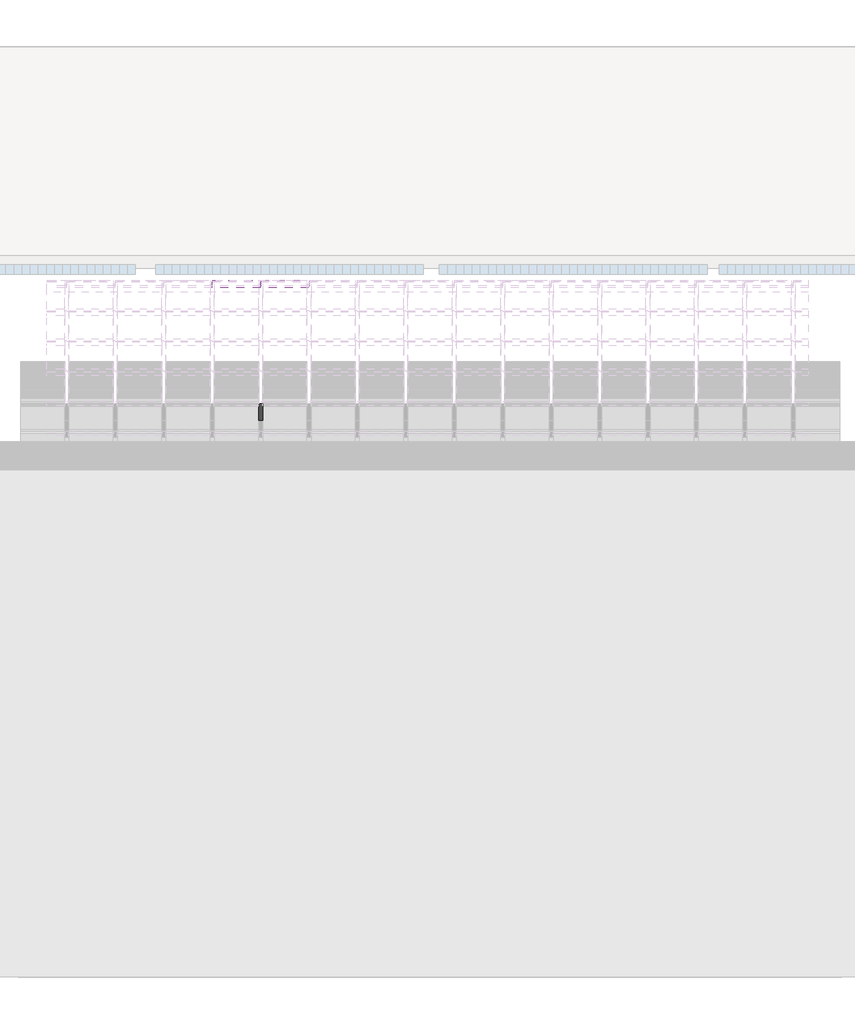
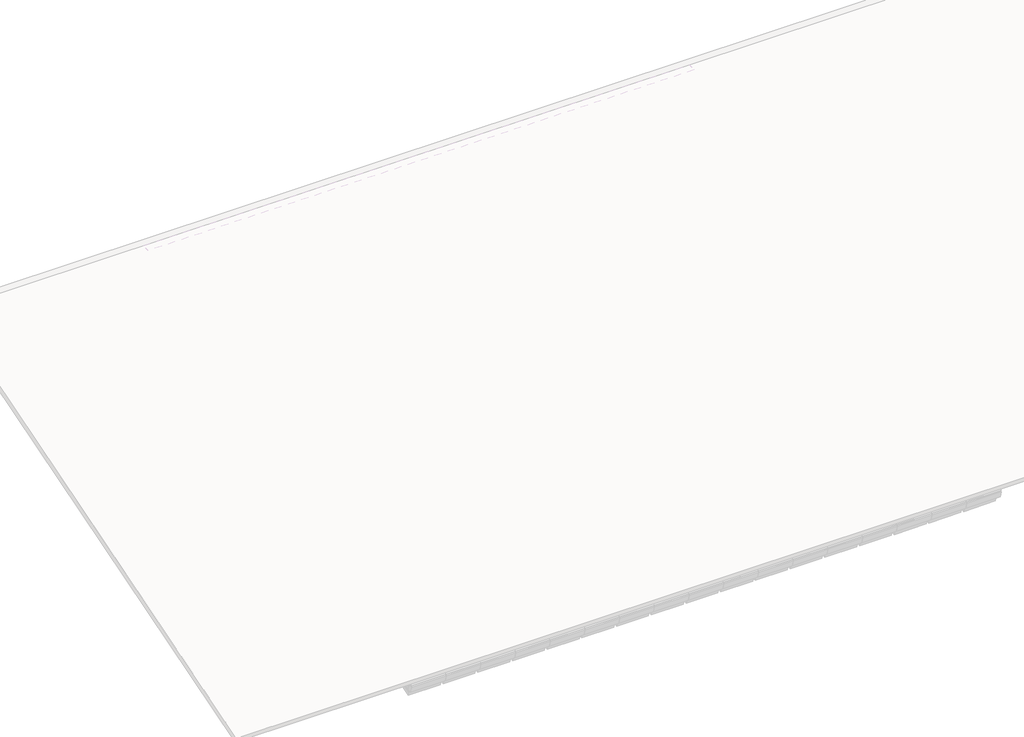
# One storey, part 15 of 57: 84 members, 40 plates.
"""IFC4 building model written with IfcOpenShell, lengths in millimetres."""

from ifc_helpers import new_model, si_unit, origin, place, context, project, spatial, transform, mapped, element, save
from components import rectangular_mullion_59984080, rectangular_mullion_2d2423ea, rectangular_mullion_3ac3718c, rectangular_mullion_caibro_e4384bba, rectangular_mullion_caibro_0993a3cf, rectangular_mullion_caibro_650698a1, empty_system_panel_vazio_178faf58, empty_system_panel_vazio_2c78850d

model = new_model("IFC4")

# Units and contexts
model_context = context("Model", 3, world=origin())
ifc_project = project(units=[si_unit("LENGTHUNIT", "METRE", prefix="MILLI")], contexts=[model_context])

# Site, building, storey
site = spatial("IfcSite", under=ifc_project)
building = spatial("IfcBuilding", under=site)
storey = spatial("IfcBuildingStorey", under=building, Name="Nível 2", Elevation=4100.0)

# Members
placement = place(None, origin())
rectangular_mullion_shape = rectangular_mullion_59984080(model_context)
element("IfcMember", 1, ObjectType="Rectangular Mullion : Ripa", at=placement, inside=storey, context=model_context, shape_type="MappedRepresentation", body=[
    mapped(rectangular_mullion_shape, transform((8344.2829728, 8162.5832694, 3598.8241594), x_axis=(0.0, 0.9578262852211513, 0.2873478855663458), y_axis=(0.0, 0.2873478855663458, -0.9578262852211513), z_axis=(-1.0, 0.0, 0.0))),
])
element("IfcMember", 2, ObjectType="Rectangular Mullion : Ripa", at=placement, inside=storey, context=model_context, shape_type="MappedRepresentation", body=[
    mapped(rectangular_mullion_shape, transform((8941.3377293, 8162.5832694, 3598.8241594), x_axis=(0.0, 0.9578262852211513, 0.2873478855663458), y_axis=(0.0, 0.2873478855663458, -0.9578262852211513), z_axis=(-1.0, 0.0, 0.0))),
])
element("IfcMember", 3, ObjectType="Rectangular Mullion : Ripa", at=placement, inside=storey, context=model_context, shape_type="MappedRepresentation", body=[
    mapped(rectangular_mullion_shape, transform((9538.3924857, 8162.5832694, 3598.8241594), x_axis=(0.0, 0.9578262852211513, 0.2873478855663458), y_axis=(0.0, 0.2873478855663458, -0.9578262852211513), z_axis=(-1.0, 0.0, 0.0))),
])
element("IfcMember", 4, ObjectType="Rectangular Mullion : Ripa", at=placement, inside=storey, context=model_context, shape_type="MappedRepresentation", body=[
    mapped(rectangular_mullion_shape, transform((10135.4472421, 8162.5832694, 3598.8241594), x_axis=(0.0, 0.9578262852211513, 0.2873478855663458), y_axis=(0.0, 0.2873478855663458, -0.9578262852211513), z_axis=(-1.0, 0.0, 0.0))),
])
element("IfcMember", 5, ObjectType="Rectangular Mullion : Ripa", at=placement, inside=storey, context=model_context, shape_type="MappedRepresentation", body=[
    mapped(rectangular_mullion_shape, transform((10732.5019985, 8162.5832694, 3598.8241594), x_axis=(0.0, 0.9578262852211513, 0.2873478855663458), y_axis=(0.0, 0.2873478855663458, -0.9578262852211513), z_axis=(-1.0, 0.0, 0.0))),
])
element("IfcMember", 6, ObjectType="Rectangular Mullion : Ripa", at=placement, inside=storey, context=model_context, shape_type="MappedRepresentation", body=[
    mapped(rectangular_mullion_shape, transform((11329.556755, 8162.5832694, 3598.8241594), x_axis=(0.0, 0.9578262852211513, 0.2873478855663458), y_axis=(0.0, 0.2873478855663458, -0.9578262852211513), z_axis=(-1.0, 0.0, 0.0))),
])
element("IfcMember", 7, ObjectType="Rectangular Mullion : Ripa", at=placement, inside=storey, context=model_context, shape_type="MappedRepresentation", body=[
    mapped(rectangular_mullion_shape, transform((11926.6115114, 8162.5832694, 3598.8241594), x_axis=(0.0, 0.9578262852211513, 0.2873478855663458), y_axis=(0.0, 0.2873478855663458, -0.9578262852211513), z_axis=(-1.0, 0.0, 0.0))),
])
element("IfcMember", 8, ObjectType="Rectangular Mullion : Ripa", at=placement, inside=storey, context=model_context, shape_type="MappedRepresentation", body=[
    mapped(rectangular_mullion_shape, transform((8344.2829728, 8532.7605281, 3709.877337), x_axis=(0.0, 0.9578262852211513, 0.2873478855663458), y_axis=(0.0, 0.2873478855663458, -0.9578262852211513), z_axis=(-1.0, 0.0, 0.0))),
])
element("IfcMember", 9, ObjectType="Rectangular Mullion : Ripa", at=placement, inside=storey, context=model_context, shape_type="MappedRepresentation", body=[
    mapped(rectangular_mullion_shape, transform((8941.3377293, 8532.7605281, 3709.877337), x_axis=(0.0, 0.9578262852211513, 0.2873478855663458), y_axis=(0.0, 0.2873478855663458, -0.9578262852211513), z_axis=(-1.0, 0.0, 0.0))),
])
element("IfcMember", 10, ObjectType="Rectangular Mullion : Ripa", at=placement, inside=storey, context=model_context, shape_type="MappedRepresentation", body=[
    mapped(rectangular_mullion_shape, transform((9538.3924857, 8532.7605281, 3709.877337), x_axis=(0.0, 0.9578262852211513, 0.2873478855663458), y_axis=(0.0, 0.2873478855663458, -0.9578262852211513), z_axis=(-1.0, 0.0, 0.0))),
])
element("IfcMember", 11, ObjectType="Rectangular Mullion : Ripa", at=placement, inside=storey, context=model_context, shape_type="MappedRepresentation", body=[
    mapped(rectangular_mullion_shape, transform((10135.4472421, 8532.7605281, 3709.877337), x_axis=(0.0, 0.9578262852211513, 0.2873478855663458), y_axis=(0.0, 0.2873478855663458, -0.9578262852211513), z_axis=(-1.0, 0.0, 0.0))),
])
element("IfcMember", 12, ObjectType="Rectangular Mullion : Ripa", at=placement, inside=storey, context=model_context, shape_type="MappedRepresentation", body=[
    mapped(rectangular_mullion_shape, transform((10732.5019985, 8532.7605281, 3709.877337), x_axis=(0.0, 0.9578262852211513, 0.2873478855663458), y_axis=(0.0, 0.2873478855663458, -0.9578262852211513), z_axis=(-1.0, 0.0, 0.0))),
])
element("IfcMember", 13, ObjectType="Rectangular Mullion : Ripa", at=placement, inside=storey, context=model_context, shape_type="MappedRepresentation", body=[
    mapped(rectangular_mullion_shape, transform((11329.556755, 8532.7605281, 3709.877337), x_axis=(0.0, 0.9578262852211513, 0.2873478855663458), y_axis=(0.0, 0.2873478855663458, -0.9578262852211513), z_axis=(-1.0, 0.0, 0.0))),
])
element("IfcMember", 14, ObjectType="Rectangular Mullion : Ripa", at=placement, inside=storey, context=model_context, shape_type="MappedRepresentation", body=[
    mapped(rectangular_mullion_shape, transform((11926.6115114, 8532.7605281, 3709.877337), x_axis=(0.0, 0.9578262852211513, 0.2873478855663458), y_axis=(0.0, 0.2873478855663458, -0.9578262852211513), z_axis=(-1.0, 0.0, 0.0))),
])
element("IfcMember", 15, ObjectType="Rectangular Mullion : Ripa", at=placement, inside=storey, context=model_context, shape_type="MappedRepresentation", body=[
    mapped(rectangular_mullion_shape, transform((8344.2829728, 8902.9377868, 3820.9305146), x_axis=(0.0, 0.9578262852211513, 0.2873478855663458), y_axis=(0.0, 0.2873478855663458, -0.9578262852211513), z_axis=(-1.0, 0.0, 0.0))),
])
element("IfcMember", 16, ObjectType="Rectangular Mullion : Ripa", at=placement, inside=storey, context=model_context, shape_type="MappedRepresentation", body=[
    mapped(rectangular_mullion_shape, transform((8941.3377293, 8902.9377868, 3820.9305146), x_axis=(0.0, 0.9578262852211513, 0.2873478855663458), y_axis=(0.0, 0.2873478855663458, -0.9578262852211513), z_axis=(-1.0, 0.0, 0.0))),
])
element("IfcMember", 17, ObjectType="Rectangular Mullion : Ripa", at=placement, inside=storey, context=model_context, shape_type="MappedRepresentation", body=[
    mapped(rectangular_mullion_shape, transform((9538.3924857, 8902.9377868, 3820.9305146), x_axis=(0.0, 0.9578262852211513, 0.2873478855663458), y_axis=(0.0, 0.2873478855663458, -0.9578262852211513), z_axis=(-1.0, 0.0, 0.0))),
])
element("IfcMember", 18, ObjectType="Rectangular Mullion : Ripa", at=placement, inside=storey, context=model_context, shape_type="MappedRepresentation", body=[
    mapped(rectangular_mullion_shape, transform((10135.4472421, 8902.9377868, 3820.9305146), x_axis=(0.0, 0.9578262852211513, 0.2873478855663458), y_axis=(0.0, 0.2873478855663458, -0.9578262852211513), z_axis=(-1.0, 0.0, 0.0))),
])
element("IfcMember", 19, ObjectType="Rectangular Mullion : Ripa", at=placement, inside=storey, context=model_context, shape_type="MappedRepresentation", body=[
    mapped(rectangular_mullion_shape, transform((10732.5019985, 8902.9377868, 3820.9305146), x_axis=(0.0, 0.9578262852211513, 0.2873478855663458), y_axis=(0.0, 0.2873478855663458, -0.9578262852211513), z_axis=(-1.0, 0.0, 0.0))),
])
element("IfcMember", 20, ObjectType="Rectangular Mullion : Ripa", at=placement, inside=storey, context=model_context, shape_type="MappedRepresentation", body=[
    mapped(rectangular_mullion_shape, transform((11329.556755, 8902.9377868, 3820.9305146), x_axis=(0.0, 0.9578262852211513, 0.2873478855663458), y_axis=(0.0, 0.2873478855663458, -0.9578262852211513), z_axis=(-1.0, 0.0, 0.0))),
])
element("IfcMember", 21, ObjectType="Rectangular Mullion : Ripa", at=placement, inside=storey, context=model_context, shape_type="MappedRepresentation", body=[
    mapped(rectangular_mullion_shape, transform((11926.6115114, 8902.9377868, 3820.9305146), x_axis=(0.0, 0.9578262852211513, 0.2873478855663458), y_axis=(0.0, 0.2873478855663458, -0.9578262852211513), z_axis=(-1.0, 0.0, 0.0))),
])
element("IfcMember", 22, ObjectType="Rectangular Mullion : Ripa", at=placement, inside=storey, context=model_context, shape_type="MappedRepresentation", body=[
    mapped(rectangular_mullion_shape, transform((8344.2829728, 9273.1150454, 3931.9836922), x_axis=(0.0, 0.9578262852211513, 0.2873478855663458), y_axis=(0.0, 0.2873478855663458, -0.9578262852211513), z_axis=(-1.0, 0.0, 0.0))),
])
element("IfcMember", 23, ObjectType="Rectangular Mullion : Ripa", at=placement, inside=storey, context=model_context, shape_type="MappedRepresentation", body=[
    mapped(rectangular_mullion_shape, transform((8941.3377293, 9273.1150454, 3931.9836922), x_axis=(0.0, 0.9578262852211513, 0.2873478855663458), y_axis=(0.0, 0.2873478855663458, -0.9578262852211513), z_axis=(-1.0, 0.0, 0.0))),
])
element("IfcMember", 24, ObjectType="Rectangular Mullion : Ripa", at=placement, inside=storey, context=model_context, shape_type="MappedRepresentation", body=[
    mapped(rectangular_mullion_shape, transform((9538.3924857, 9273.1150454, 3931.9836922), x_axis=(0.0, 0.9578262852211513, 0.2873478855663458), y_axis=(0.0, 0.2873478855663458, -0.9578262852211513), z_axis=(-1.0, 0.0, 0.0))),
])
element("IfcMember", 25, ObjectType="Rectangular Mullion : Ripa", at=placement, inside=storey, context=model_context, shape_type="MappedRepresentation", body=[
    mapped(rectangular_mullion_shape, transform((10135.4472421, 9273.1150454, 3931.9836922), x_axis=(0.0, 0.9578262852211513, 0.2873478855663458), y_axis=(0.0, 0.2873478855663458, -0.9578262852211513), z_axis=(-1.0, 0.0, 0.0))),
])
element("IfcMember", 26, ObjectType="Rectangular Mullion : Ripa", at=placement, inside=storey, context=model_context, shape_type="MappedRepresentation", body=[
    mapped(rectangular_mullion_shape, transform((10732.5019985, 9273.1150454, 3931.9836922), x_axis=(0.0, 0.9578262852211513, 0.2873478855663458), y_axis=(0.0, 0.2873478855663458, -0.9578262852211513), z_axis=(-1.0, 0.0, 0.0))),
])
element("IfcMember", 27, ObjectType="Rectangular Mullion : Ripa", at=placement, inside=storey, context=model_context, shape_type="MappedRepresentation", body=[
    mapped(rectangular_mullion_shape, transform((11329.556755, 9273.1150454, 3931.9836922), x_axis=(0.0, 0.9578262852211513, 0.2873478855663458), y_axis=(0.0, 0.2873478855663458, -0.9578262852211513), z_axis=(-1.0, 0.0, 0.0))),
])
element("IfcMember", 28, ObjectType="Rectangular Mullion : Ripa", at=placement, inside=storey, context=model_context, shape_type="MappedRepresentation", body=[
    mapped(rectangular_mullion_shape, transform((11926.6115114, 9273.1150454, 3931.9836922), x_axis=(0.0, 0.9578262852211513, 0.2873478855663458), y_axis=(0.0, 0.2873478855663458, -0.9578262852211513), z_axis=(-1.0, 0.0, 0.0))),
])
element("IfcMember", 29, ObjectType="Rectangular Mullion : Ripa", at=placement, inside=storey, context=model_context, shape_type="MappedRepresentation", body=[
    mapped(rectangular_mullion_shape, transform((8344.2829728, 9643.2923041, 4043.0368698), x_axis=(0.0, 0.9578262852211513, 0.2873478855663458), y_axis=(0.0, 0.2873478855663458, -0.9578262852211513), z_axis=(-1.0, 0.0, 0.0))),
])
element("IfcMember", 30, ObjectType="Rectangular Mullion : Ripa", at=placement, inside=storey, context=model_context, shape_type="MappedRepresentation", body=[
    mapped(rectangular_mullion_shape, transform((8941.3377293, 9643.2923041, 4043.0368698), x_axis=(0.0, 0.9578262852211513, 0.2873478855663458), y_axis=(0.0, 0.2873478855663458, -0.9578262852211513), z_axis=(-1.0, 0.0, 0.0))),
])
element("IfcMember", 31, ObjectType="Rectangular Mullion : Ripa", at=placement, inside=storey, context=model_context, shape_type="MappedRepresentation", body=[
    mapped(rectangular_mullion_shape, transform((9538.3924857, 9643.2923041, 4043.0368698), x_axis=(0.0, 0.9578262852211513, 0.2873478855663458), y_axis=(0.0, 0.2873478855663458, -0.9578262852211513), z_axis=(-1.0, 0.0, 0.0))),
])
element("IfcMember", 32, ObjectType="Rectangular Mullion : Ripa", at=placement, inside=storey, context=model_context, shape_type="MappedRepresentation", body=[
    mapped(rectangular_mullion_shape, transform((10135.4472421, 9643.2923041, 4043.0368698), x_axis=(0.0, 0.9578262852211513, 0.2873478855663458), y_axis=(0.0, 0.2873478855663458, -0.9578262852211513), z_axis=(-1.0, 0.0, 0.0))),
])
element("IfcMember", 33, ObjectType="Rectangular Mullion : Ripa", at=placement, inside=storey, context=model_context, shape_type="MappedRepresentation", body=[
    mapped(rectangular_mullion_shape, transform((10732.5019985, 9643.2923041, 4043.0368698), x_axis=(0.0, 0.9578262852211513, 0.2873478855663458), y_axis=(0.0, 0.2873478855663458, -0.9578262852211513), z_axis=(-1.0, 0.0, 0.0))),
])
element("IfcMember", 34, ObjectType="Rectangular Mullion : Ripa", at=placement, inside=storey, context=model_context, shape_type="MappedRepresentation", body=[
    mapped(rectangular_mullion_shape, transform((11329.556755, 9643.2923041, 4043.0368698), x_axis=(0.0, 0.9578262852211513, 0.2873478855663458), y_axis=(0.0, 0.2873478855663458, -0.9578262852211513), z_axis=(-1.0, 0.0, 0.0))),
])
rectangular_mullion_2_shape = rectangular_mullion_2d2423ea(model_context)
element("IfcMember", 35, ObjectType="Rectangular Mullion : Terça", at=placement, inside=storey, context=model_context, shape_type="MappedRepresentation", body=[
    mapped(rectangular_mullion_2_shape, transform((8344.2829728, 9159.0196393, 3835.1132313), x_axis=(0.0, 0.9578262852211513, 0.2873478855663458), y_axis=(0.0, 0.2873478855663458, -0.9578262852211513), z_axis=(-1.0, 0.0, 0.0))),
])
element("IfcMember", 36, ObjectType="Rectangular Mullion : Terça", at=placement, inside=storey, context=model_context, shape_type="MappedRepresentation", body=[
    mapped(rectangular_mullion_2_shape, transform((8941.3377293, 9159.0196393, 3835.1132313), x_axis=(0.0, 0.9578262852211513, 0.2873478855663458), y_axis=(0.0, 0.2873478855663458, -0.9578262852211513), z_axis=(-1.0, 0.0, 0.0))),
])
element("IfcMember", 37, ObjectType="Rectangular Mullion : Terça", at=placement, inside=storey, context=model_context, shape_type="MappedRepresentation", body=[
    mapped(rectangular_mullion_2_shape, transform((9538.3924857, 9159.0196393, 3835.1132313), x_axis=(0.0, 0.9578262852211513, 0.2873478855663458), y_axis=(0.0, 0.2873478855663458, -0.9578262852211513), z_axis=(-1.0, 0.0, 0.0))),
])
element("IfcMember", 38, ObjectType="Rectangular Mullion : Terça", at=placement, inside=storey, context=model_context, shape_type="MappedRepresentation", body=[
    mapped(rectangular_mullion_2_shape, transform((10135.4472421, 9159.0196393, 3835.1132313), x_axis=(0.0, 0.9578262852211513, 0.2873478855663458), y_axis=(0.0, 0.2873478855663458, -0.9578262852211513), z_axis=(-1.0, 0.0, 0.0))),
])
element("IfcMember", 39, ObjectType="Rectangular Mullion : Terça", at=placement, inside=storey, context=model_context, shape_type="MappedRepresentation", body=[
    mapped(rectangular_mullion_2_shape, transform((10732.5019985, 9159.0196393, 3835.1132313), x_axis=(0.0, 0.9578262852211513, 0.2873478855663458), y_axis=(0.0, 0.2873478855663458, -0.9578262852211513), z_axis=(-1.0, 0.0, 0.0))),
])
rectangular_mullion_3_shape = rectangular_mullion_3ac3718c(model_context)
element("IfcMember", 40, ObjectType="Rectangular Mullion : Terça", at=placement, inside=storey, context=model_context, shape_type="MappedRepresentation", body=[
    mapped(rectangular_mullion_3_shape, transform((7125.17346, 15566.1284427, 5757.2458723), x_axis=(0.0, 0.9578262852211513, 0.2873478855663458), y_axis=(0.0, 0.2873478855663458, -0.9578262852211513), z_axis=(-1.0, 0.0, 0.0))),
])
element("IfcMember", 41, ObjectType="Rectangular Mullion : Terça", at=placement, inside=storey, context=model_context, shape_type="MappedRepresentation", body=[
    mapped(rectangular_mullion_3_shape, transform((7722.2282164, 15566.1284427, 5757.2458723), x_axis=(0.0, 0.9578262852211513, 0.2873478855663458), y_axis=(0.0, 0.2873478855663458, -0.9578262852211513), z_axis=(-1.0, 0.0, 0.0))),
])
rectangular_mullion_caibro_shape = rectangular_mullion_caibro_e4384bba(model_context)
element("IfcMember", 42, ObjectType="Rectangular Mullion : Caibro", at=placement, inside=storey, context=model_context, shape_type="MappedRepresentation", body=[
    mapped(rectangular_mullion_caibro_shape, transform((8319.2829728, 8162.5832694, 3598.8241594), x_axis=(1.0, 0.0, 0.0), y_axis=(0.0, 0.2873478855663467, -0.9578262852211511), z_axis=(0.0, 0.9578262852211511, 0.2873478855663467))),
])
element("IfcMember", 43, ObjectType="Rectangular Mullion : Caibro", at=placement, inside=storey, context=model_context, shape_type="MappedRepresentation", body=[
    mapped(rectangular_mullion_caibro_shape, transform((8319.2829728, 8532.7605281, 3709.877337), x_axis=(1.0, 0.0, 0.0), y_axis=(0.0, 0.2873478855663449, -0.9578262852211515), z_axis=(0.0, 0.9578262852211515, 0.2873478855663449))),
])
element("IfcMember", 44, ObjectType="Rectangular Mullion : Caibro", at=placement, inside=storey, context=model_context, shape_type="MappedRepresentation", body=[
    mapped(rectangular_mullion_caibro_shape, transform((8319.2829728, 8902.9377868, 3820.9305146), x_axis=(1.0, 0.0, 0.0), y_axis=(0.0, 0.2873478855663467, -0.9578262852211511), z_axis=(0.0, 0.9578262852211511, 0.2873478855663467))),
])
element("IfcMember", 45, ObjectType="Rectangular Mullion : Caibro", at=placement, inside=storey, context=model_context, shape_type="MappedRepresentation", body=[
    mapped(rectangular_mullion_caibro_shape, transform((8319.2829728, 9273.1150454, 3931.9836922), x_axis=(1.0, 0.0, 0.0), y_axis=(0.0, 0.2873478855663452, -0.9578262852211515), z_axis=(0.0, 0.9578262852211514, 0.28734788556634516))),
])
element("IfcMember", 46, ObjectType="Rectangular Mullion : Caibro", at=placement, inside=storey, context=model_context, shape_type="MappedRepresentation", body=[
    mapped(rectangular_mullion_caibro_shape, transform((8319.2829728, 9643.2923041, 4043.0368698), x_axis=(1.0, 0.0, 0.0), y_axis=(0.0, 0.28734788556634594, -0.9578262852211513), z_axis=(0.0, 0.9578262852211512, 0.2873478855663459))),
])
element("IfcMember", 47, ObjectType="Rectangular Mullion : Caibro", at=placement, inside=storey, context=model_context, shape_type="MappedRepresentation", body=[
    mapped(rectangular_mullion_caibro_shape, transform((8916.3377293, 8162.5832694, 3598.8241594), x_axis=(1.0, 0.0, 0.0), y_axis=(0.0, 0.2873478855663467, -0.9578262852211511), z_axis=(0.0, 0.9578262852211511, 0.2873478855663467))),
])
element("IfcMember", 48, ObjectType="Rectangular Mullion : Caibro", at=placement, inside=storey, context=model_context, shape_type="MappedRepresentation", body=[
    mapped(rectangular_mullion_caibro_shape, transform((8916.3377293, 8532.7605281, 3709.877337), x_axis=(1.0, 0.0, 0.0), y_axis=(0.0, 0.2873478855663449, -0.9578262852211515), z_axis=(0.0, 0.9578262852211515, 0.2873478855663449))),
])
element("IfcMember", 49, ObjectType="Rectangular Mullion : Caibro", at=placement, inside=storey, context=model_context, shape_type="MappedRepresentation", body=[
    mapped(rectangular_mullion_caibro_shape, transform((8916.3377293, 8902.9377868, 3820.9305146), x_axis=(1.0, 0.0, 0.0), y_axis=(0.0, 0.2873478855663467, -0.9578262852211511), z_axis=(0.0, 0.9578262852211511, 0.2873478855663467))),
])
element("IfcMember", 50, ObjectType="Rectangular Mullion : Caibro", at=placement, inside=storey, context=model_context, shape_type="MappedRepresentation", body=[
    mapped(rectangular_mullion_caibro_shape, transform((8916.3377293, 9273.1150454, 3931.9836922), x_axis=(1.0, 0.0, 0.0), y_axis=(0.0, 0.2873478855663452, -0.9578262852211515), z_axis=(0.0, 0.9578262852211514, 0.28734788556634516))),
])
element("IfcMember", 51, ObjectType="Rectangular Mullion : Caibro", at=placement, inside=storey, context=model_context, shape_type="MappedRepresentation", body=[
    mapped(rectangular_mullion_caibro_shape, transform((8916.3377293, 9643.2923041, 4043.0368698), x_axis=(1.0, 0.0, 0.0), y_axis=(0.0, 0.28734788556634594, -0.9578262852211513), z_axis=(0.0, 0.9578262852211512, 0.2873478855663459))),
])
element("IfcMember", 52, ObjectType="Rectangular Mullion : Caibro", at=placement, inside=storey, context=model_context, shape_type="MappedRepresentation", body=[
    mapped(rectangular_mullion_caibro_shape, transform((9513.3924857, 8162.5832694, 3598.8241594), x_axis=(1.0, 0.0, 0.0), y_axis=(0.0, 0.28734788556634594, -0.9578262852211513), z_axis=(0.0, 0.9578262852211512, 0.2873478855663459))),
])
element("IfcMember", 53, ObjectType="Rectangular Mullion : Caibro", at=placement, inside=storey, context=model_context, shape_type="MappedRepresentation", body=[
    mapped(rectangular_mullion_caibro_shape, transform((9513.3924857, 8532.7605281, 3709.877337), x_axis=(1.0, 0.0, 0.0), y_axis=(0.0, 0.2873478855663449, -0.9578262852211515), z_axis=(0.0, 0.9578262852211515, 0.2873478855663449))),
])
element("IfcMember", 54, ObjectType="Rectangular Mullion : Caibro", at=placement, inside=storey, context=model_context, shape_type="MappedRepresentation", body=[
    mapped(rectangular_mullion_caibro_shape, transform((9513.3924857, 8902.9377868, 3820.9305146), x_axis=(1.0, 0.0, 0.0), y_axis=(0.0, 0.2873478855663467, -0.9578262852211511), z_axis=(0.0, 0.9578262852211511, 0.2873478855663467))),
])
element("IfcMember", 55, ObjectType="Rectangular Mullion : Caibro", at=placement, inside=storey, context=model_context, shape_type="MappedRepresentation", body=[
    mapped(rectangular_mullion_caibro_shape, transform((9513.3924857, 9273.1150454, 3931.9836922), x_axis=(1.0, 0.0, 0.0), y_axis=(0.0, 0.2873478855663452, -0.9578262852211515), z_axis=(0.0, 0.9578262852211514, 0.28734788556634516))),
])
element("IfcMember", 56, ObjectType="Rectangular Mullion : Caibro", at=placement, inside=storey, context=model_context, shape_type="MappedRepresentation", body=[
    mapped(rectangular_mullion_caibro_shape, transform((9513.3924857, 9643.2923041, 4043.0368698), x_axis=(1.0, 0.0, 0.0), y_axis=(0.0, 0.2873478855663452, -0.9578262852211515), z_axis=(0.0, 0.9578262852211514, 0.28734788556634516))),
])
element("IfcMember", 57, ObjectType="Rectangular Mullion : Caibro", at=placement, inside=storey, context=model_context, shape_type="MappedRepresentation", body=[
    mapped(rectangular_mullion_caibro_shape, transform((10110.4472421, 8162.5832694, 3598.8241594), x_axis=(1.0, 0.0, 0.0), y_axis=(0.0, 0.28734788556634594, -0.9578262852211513), z_axis=(0.0, 0.9578262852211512, 0.2873478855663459))),
])
element("IfcMember", 58, ObjectType="Rectangular Mullion : Caibro", at=placement, inside=storey, context=model_context, shape_type="MappedRepresentation", body=[
    mapped(rectangular_mullion_caibro_shape, transform((10110.4472421, 8532.7605281, 3709.877337), x_axis=(1.0, 0.0, 0.0), y_axis=(0.0, 0.2873478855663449, -0.9578262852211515), z_axis=(0.0, 0.9578262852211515, 0.2873478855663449))),
])
element("IfcMember", 59, ObjectType="Rectangular Mullion : Caibro", at=placement, inside=storey, context=model_context, shape_type="MappedRepresentation", body=[
    mapped(rectangular_mullion_caibro_shape, transform((10110.4472421, 8902.9377868, 3820.9305146), x_axis=(1.0, 0.0, 0.0), y_axis=(0.0, 0.2873478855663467, -0.9578262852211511), z_axis=(0.0, 0.9578262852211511, 0.2873478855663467))),
])
element("IfcMember", 60, ObjectType="Rectangular Mullion : Caibro", at=placement, inside=storey, context=model_context, shape_type="MappedRepresentation", body=[
    mapped(rectangular_mullion_caibro_shape, transform((10110.4472421, 9273.1150454, 3931.9836922), x_axis=(1.0, 0.0, 0.0), y_axis=(0.0, 0.2873478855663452, -0.9578262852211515), z_axis=(0.0, 0.9578262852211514, 0.28734788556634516))),
])
element("IfcMember", 61, ObjectType="Rectangular Mullion : Caibro", at=placement, inside=storey, context=model_context, shape_type="MappedRepresentation", body=[
    mapped(rectangular_mullion_caibro_shape, transform((10110.4472421, 9643.2923041, 4043.0368698), x_axis=(1.0, 0.0, 0.0), y_axis=(0.0, 0.2873478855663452, -0.9578262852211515), z_axis=(0.0, 0.9578262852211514, 0.28734788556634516))),
])
element("IfcMember", 62, ObjectType="Rectangular Mullion : Caibro", at=placement, inside=storey, context=model_context, shape_type="MappedRepresentation", body=[
    mapped(rectangular_mullion_caibro_shape, transform((10707.5019985, 8162.5832694, 3598.8241594), x_axis=(1.0, 0.0, 0.0), y_axis=(0.0, 0.28734788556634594, -0.9578262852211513), z_axis=(0.0, 0.9578262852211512, 0.2873478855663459))),
])
element("IfcMember", 63, ObjectType="Rectangular Mullion : Caibro", at=placement, inside=storey, context=model_context, shape_type="MappedRepresentation", body=[
    mapped(rectangular_mullion_caibro_shape, transform((10707.5019985, 8532.7605281, 3709.877337), x_axis=(1.0, 0.0, 0.0), y_axis=(0.0, 0.2873478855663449, -0.9578262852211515), z_axis=(0.0, 0.9578262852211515, 0.2873478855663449))),
])
element("IfcMember", 64, ObjectType="Rectangular Mullion : Caibro", at=placement, inside=storey, context=model_context, shape_type="MappedRepresentation", body=[
    mapped(rectangular_mullion_caibro_shape, transform((10707.5019985, 8902.9377868, 3820.9305146), x_axis=(1.0, 0.0, 0.0), y_axis=(0.0, 0.2873478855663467, -0.9578262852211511), z_axis=(0.0, 0.9578262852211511, 0.2873478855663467))),
])
element("IfcMember", 65, ObjectType="Rectangular Mullion : Caibro", at=placement, inside=storey, context=model_context, shape_type="MappedRepresentation", body=[
    mapped(rectangular_mullion_caibro_shape, transform((10707.5019985, 9273.1150454, 3931.9836922), x_axis=(1.0, 0.0, 0.0), y_axis=(0.0, 0.2873478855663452, -0.9578262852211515), z_axis=(0.0, 0.9578262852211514, 0.28734788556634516))),
])
element("IfcMember", 66, ObjectType="Rectangular Mullion : Caibro", at=placement, inside=storey, context=model_context, shape_type="MappedRepresentation", body=[
    mapped(rectangular_mullion_caibro_shape, transform((10707.5019985, 9643.2923041, 4043.0368698), x_axis=(1.0, 0.0, 0.0), y_axis=(0.0, 0.2873478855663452, -0.9578262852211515), z_axis=(0.0, 0.9578262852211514, 0.28734788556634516))),
])
element("IfcMember", 67, ObjectType="Rectangular Mullion : Caibro", at=placement, inside=storey, context=model_context, shape_type="MappedRepresentation", body=[
    mapped(rectangular_mullion_caibro_shape, transform((11304.556755, 8162.5832694, 3598.8241594), x_axis=(1.0, 0.0, 0.0), y_axis=(0.0, 0.28734788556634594, -0.9578262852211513), z_axis=(0.0, 0.9578262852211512, 0.2873478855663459))),
])
element("IfcMember", 68, ObjectType="Rectangular Mullion : Caibro", at=placement, inside=storey, context=model_context, shape_type="MappedRepresentation", body=[
    mapped(rectangular_mullion_caibro_shape, transform((11304.556755, 8532.7605281, 3709.877337), x_axis=(1.0, 0.0, 0.0), y_axis=(0.0, 0.2873478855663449, -0.9578262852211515), z_axis=(0.0, 0.9578262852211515, 0.2873478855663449))),
])
element("IfcMember", 69, ObjectType="Rectangular Mullion : Caibro", at=placement, inside=storey, context=model_context, shape_type="MappedRepresentation", body=[
    mapped(rectangular_mullion_caibro_shape, transform((11304.556755, 8902.9377868, 3820.9305146), x_axis=(1.0, 0.0, 0.0), y_axis=(0.0, 0.2873478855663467, -0.9578262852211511), z_axis=(0.0, 0.9578262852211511, 0.2873478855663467))),
])
element("IfcMember", 70, ObjectType="Rectangular Mullion : Caibro", at=placement, inside=storey, context=model_context, shape_type="MappedRepresentation", body=[
    mapped(rectangular_mullion_caibro_shape, transform((11304.556755, 9273.1150454, 3931.9836922), x_axis=(1.0, 0.0, 0.0), y_axis=(0.0, 0.2873478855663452, -0.9578262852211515), z_axis=(0.0, 0.9578262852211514, 0.28734788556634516))),
])
element("IfcMember", 71, ObjectType="Rectangular Mullion : Caibro", at=placement, inside=storey, context=model_context, shape_type="MappedRepresentation", body=[
    mapped(rectangular_mullion_caibro_shape, transform((11304.556755, 9643.2923041, 4043.0368698), x_axis=(1.0, 0.0, 0.0), y_axis=(0.0, 0.2873478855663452, -0.9578262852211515), z_axis=(0.0, 0.9578262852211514, 0.28734788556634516))),
])
element("IfcMember", 72, ObjectType="Rectangular Mullion : Caibro", at=placement, inside=storey, context=model_context, shape_type="MappedRepresentation", body=[
    mapped(rectangular_mullion_caibro_shape, transform((11901.6115114, 8162.5832694, 3598.8241594), x_axis=(1.0, 0.0, 0.0), y_axis=(0.0, 0.28734788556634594, -0.9578262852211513), z_axis=(0.0, 0.9578262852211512, 0.2873478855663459))),
])
element("IfcMember", 73, ObjectType="Rectangular Mullion : Caibro", at=placement, inside=storey, context=model_context, shape_type="MappedRepresentation", body=[
    mapped(rectangular_mullion_caibro_shape, transform((11901.6115114, 8532.7605281, 3709.877337), x_axis=(1.0, 0.0, 0.0), y_axis=(0.0, 0.2873478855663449, -0.9578262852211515), z_axis=(0.0, 0.9578262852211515, 0.2873478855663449))),
])
element("IfcMember", 74, ObjectType="Rectangular Mullion : Caibro", at=placement, inside=storey, context=model_context, shape_type="MappedRepresentation", body=[
    mapped(rectangular_mullion_caibro_shape, transform((11901.6115114, 8902.9377868, 3820.9305146), x_axis=(1.0, 0.0, 0.0), y_axis=(0.0, 0.2873478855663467, -0.9578262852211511), z_axis=(0.0, 0.9578262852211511, 0.2873478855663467))),
])
element("IfcMember", 75, ObjectType="Rectangular Mullion : Caibro", at=placement, inside=storey, context=model_context, shape_type="MappedRepresentation", body=[
    mapped(rectangular_mullion_caibro_shape, transform((11901.6115114, 9273.1150454, 3931.9836922), x_axis=(1.0, 0.0, 0.0), y_axis=(0.0, 0.2873478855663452, -0.9578262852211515), z_axis=(0.0, 0.9578262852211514, 0.28734788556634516))),
])
element("IfcMember", 76, ObjectType="Rectangular Mullion : Caibro", at=placement, inside=storey, context=model_context, shape_type="MappedRepresentation", body=[
    mapped(rectangular_mullion_caibro_shape, transform((11901.6115114, 9643.2923041, 4043.0368698), x_axis=(1.0, 0.0, 0.0), y_axis=(0.0, 0.2873478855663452, -0.9578262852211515), z_axis=(0.0, 0.9578262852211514, 0.28734788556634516))),
])
rectangular_mullion_caibro_2_shape = rectangular_mullion_caibro_0993a3cf(model_context)
element("IfcMember", 77, ObjectType="Rectangular Mullion : Caibro", at=placement, inside=storey, context=model_context, shape_type="MappedRepresentation", body=[
    mapped(rectangular_mullion_caibro_2_shape, transform((7722.2282164, 15508.6588656, 5740.0049992), x_axis=(1.0, 0.0, 0.0), y_axis=(0.0, 0.28734788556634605, -0.9578262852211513), z_axis=(0.0, 0.9578262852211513, 0.28734788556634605))),
])
element("IfcMember", 78, ObjectType="Rectangular Mullion : Caibro", at=placement, inside=storey, context=model_context, shape_type="MappedRepresentation", body=[
    mapped(rectangular_mullion_caibro_2_shape, transform((8319.2829728, 9159.0196393, 3835.1132313), x_axis=(1.0, 0.0, 0.0), y_axis=(0.0, 0.2873478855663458, -0.9578262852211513), z_axis=(0.0, 0.9578262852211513, 0.2873478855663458))),
])
element("IfcMember", 79, ObjectType="Rectangular Mullion : Caibro", at=placement, inside=storey, context=model_context, shape_type="MappedRepresentation", body=[
    mapped(rectangular_mullion_caibro_2_shape, transform((8916.3377293, 9159.0196393, 3835.1132313), x_axis=(1.0, 0.0, 0.0), y_axis=(0.0, 0.2873478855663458, -0.9578262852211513), z_axis=(0.0, 0.9578262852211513, 0.2873478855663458))),
])
element("IfcMember", 80, ObjectType="Rectangular Mullion : Caibro", at=placement, inside=storey, context=model_context, shape_type="MappedRepresentation", body=[
    mapped(rectangular_mullion_caibro_2_shape, transform((9513.3924857, 9159.0196393, 3835.1132313), x_axis=(1.0, 0.0, 0.0), y_axis=(0.0, 0.2873478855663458, -0.9578262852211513), z_axis=(0.0, 0.9578262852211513, 0.2873478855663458))),
])
element("IfcMember", 81, ObjectType="Rectangular Mullion : Caibro", at=placement, inside=storey, context=model_context, shape_type="MappedRepresentation", body=[
    mapped(rectangular_mullion_caibro_2_shape, transform((10110.4472421, 9159.0196393, 3835.1132313), x_axis=(1.0, 0.0, 0.0), y_axis=(0.0, 0.2873478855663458, -0.9578262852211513), z_axis=(0.0, 0.9578262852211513, 0.2873478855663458))),
])
element("IfcMember", 82, ObjectType="Rectangular Mullion : Caibro", at=placement, inside=storey, context=model_context, shape_type="MappedRepresentation", body=[
    mapped(rectangular_mullion_caibro_2_shape, transform((10707.5019985, 9159.0196393, 3835.1132313), x_axis=(1.0, 0.0, 0.0), y_axis=(0.0, 0.2873478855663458, -0.9578262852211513), z_axis=(0.0, 0.9578262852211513, 0.2873478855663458))),
])
rectangular_mullion_caibro_3_shape = rectangular_mullion_caibro_650698a1(model_context)
element("IfcMember", 83, ObjectType="Rectangular Mullion : Caibro", at=placement, inside=storey, context=model_context, shape_type="MappedRepresentation", body=[
    mapped(rectangular_mullion_caibro_3_shape, transform((7705.3165661, 15772.0058221, 4410.7541277), x_axis=(-1.0, 0.0, 0.0), y_axis=(0.0, -0.2873478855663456, -0.9578262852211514), z_axis=(0.0, -0.9578262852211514, 0.2873478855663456))),
])
element("IfcMember", 84, ObjectType="Rectangular Mullion : Caibro", at=placement, inside=storey, context=model_context, shape_type="MappedRepresentation", body=[
    mapped(rectangular_mullion_caibro_3_shape, transform((7107.9680644, 15772.0058221, 4410.7541277), x_axis=(-1.0, 0.0, 0.0), y_axis=(0.0, -0.2873478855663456, -0.9578262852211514), z_axis=(0.0, -0.9578262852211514, 0.2873478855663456))),
])

# Plates
empty_system_panel_vazio_shape = empty_system_panel_vazio_178faf58(model_context)
element("IfcPlate", 85, ObjectType="Empty System Panel : Vazio", at=placement, inside=storey, context=model_context, shape_type="MappedRepresentation", body=[
    mapped(empty_system_panel_vazio_shape, transform((8020.7555946, 8162.5832694, 3598.8241594), x_axis=(1.0, 0.0, 0.0), y_axis=(0.0, 0.2873478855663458, -0.9578262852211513), z_axis=(0.0, 0.9578262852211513, 0.2873478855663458))),
])
element("IfcPlate", 86, ObjectType="Empty System Panel : Vazio", at=placement, inside=storey, context=model_context, shape_type="MappedRepresentation", body=[
    mapped(empty_system_panel_vazio_shape, transform((8617.810351, 8162.5832694, 3598.8241594), x_axis=(1.0, 0.0, 0.0), y_axis=(0.0, 0.2873478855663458, -0.9578262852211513), z_axis=(0.0, 0.9578262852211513, 0.2873478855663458))),
])
element("IfcPlate", 87, ObjectType="Empty System Panel : Vazio", at=placement, inside=storey, context=model_context, shape_type="MappedRepresentation", body=[
    mapped(empty_system_panel_vazio_shape, transform((9214.8651075, 8162.5832694, 3598.8241594), x_axis=(1.0, 0.0, 0.0), y_axis=(0.0, 0.2873478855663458, -0.9578262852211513), z_axis=(0.0, 0.9578262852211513, 0.2873478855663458))),
])
element("IfcPlate", 88, ObjectType="Empty System Panel : Vazio", at=placement, inside=storey, context=model_context, shape_type="MappedRepresentation", body=[
    mapped(empty_system_panel_vazio_shape, transform((9811.9198639, 8162.5832694, 3598.8241594), x_axis=(1.0, 0.0, 0.0), y_axis=(0.0, 0.2873478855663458, -0.9578262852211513), z_axis=(0.0, 0.9578262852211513, 0.2873478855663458))),
])
element("IfcPlate", 89, ObjectType="Empty System Panel : Vazio", at=placement, inside=storey, context=model_context, shape_type="MappedRepresentation", body=[
    mapped(empty_system_panel_vazio_shape, transform((10408.9746203, 8162.5832694, 3598.8241594), x_axis=(1.0, 0.0, 0.0), y_axis=(0.0, 0.2873478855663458, -0.9578262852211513), z_axis=(0.0, 0.9578262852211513, 0.2873478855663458))),
])
element("IfcPlate", 90, ObjectType="Empty System Panel : Vazio", at=placement, inside=storey, context=model_context, shape_type="MappedRepresentation", body=[
    mapped(empty_system_panel_vazio_shape, transform((11006.0293767, 8162.5832694, 3598.8241594), x_axis=(1.0, 0.0, 0.0), y_axis=(0.0, 0.2873478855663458, -0.9578262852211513), z_axis=(0.0, 0.9578262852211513, 0.2873478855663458))),
])
element("IfcPlate", 91, ObjectType="Empty System Panel : Vazio", at=placement, inside=storey, context=model_context, shape_type="MappedRepresentation", body=[
    mapped(empty_system_panel_vazio_shape, transform((11603.0841332, 8162.5832694, 3598.8241594), x_axis=(1.0, 0.0, 0.0), y_axis=(0.0, 0.2873478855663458, -0.9578262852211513), z_axis=(0.0, 0.9578262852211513, 0.2873478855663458))),
])
element("IfcPlate", 92, ObjectType="Empty System Panel : Vazio", at=placement, inside=storey, context=model_context, shape_type="MappedRepresentation", body=[
    mapped(empty_system_panel_vazio_shape, transform((8020.7555946, 8532.7605281, 3709.877337), x_axis=(1.0, 0.0, 0.0), y_axis=(0.0, 0.2873478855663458, -0.9578262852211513), z_axis=(0.0, 0.9578262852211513, 0.2873478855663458))),
])
element("IfcPlate", 93, ObjectType="Empty System Panel : Vazio", at=placement, inside=storey, context=model_context, shape_type="MappedRepresentation", body=[
    mapped(empty_system_panel_vazio_shape, transform((8617.810351, 8532.7605281, 3709.877337), x_axis=(1.0, 0.0, 0.0), y_axis=(0.0, 0.2873478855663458, -0.9578262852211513), z_axis=(0.0, 0.9578262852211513, 0.2873478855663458))),
])
element("IfcPlate", 94, ObjectType="Empty System Panel : Vazio", at=placement, inside=storey, context=model_context, shape_type="MappedRepresentation", body=[
    mapped(empty_system_panel_vazio_shape, transform((9214.8651075, 8532.7605281, 3709.877337), x_axis=(1.0, 0.0, 0.0), y_axis=(0.0, 0.2873478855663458, -0.9578262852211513), z_axis=(0.0, 0.9578262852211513, 0.2873478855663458))),
])
element("IfcPlate", 95, ObjectType="Empty System Panel : Vazio", at=placement, inside=storey, context=model_context, shape_type="MappedRepresentation", body=[
    mapped(empty_system_panel_vazio_shape, transform((9811.9198639, 8532.7605281, 3709.877337), x_axis=(1.0, 0.0, 0.0), y_axis=(0.0, 0.2873478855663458, -0.9578262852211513), z_axis=(0.0, 0.9578262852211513, 0.2873478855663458))),
])
element("IfcPlate", 96, ObjectType="Empty System Panel : Vazio", at=placement, inside=storey, context=model_context, shape_type="MappedRepresentation", body=[
    mapped(empty_system_panel_vazio_shape, transform((10408.9746203, 8532.7605281, 3709.877337), x_axis=(1.0, 0.0, 0.0), y_axis=(0.0, 0.2873478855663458, -0.9578262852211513), z_axis=(0.0, 0.9578262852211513, 0.2873478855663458))),
])
element("IfcPlate", 97, ObjectType="Empty System Panel : Vazio", at=placement, inside=storey, context=model_context, shape_type="MappedRepresentation", body=[
    mapped(empty_system_panel_vazio_shape, transform((11006.0293767, 8532.7605281, 3709.877337), x_axis=(1.0, 0.0, 0.0), y_axis=(0.0, 0.2873478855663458, -0.9578262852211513), z_axis=(0.0, 0.9578262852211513, 0.2873478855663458))),
])
element("IfcPlate", 98, ObjectType="Empty System Panel : Vazio", at=placement, inside=storey, context=model_context, shape_type="MappedRepresentation", body=[
    mapped(empty_system_panel_vazio_shape, transform((11603.0841332, 8532.7605281, 3709.877337), x_axis=(1.0, 0.0, 0.0), y_axis=(0.0, 0.2873478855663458, -0.9578262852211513), z_axis=(0.0, 0.9578262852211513, 0.2873478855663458))),
])
element("IfcPlate", 99, ObjectType="Empty System Panel : Vazio", at=placement, inside=storey, context=model_context, shape_type="MappedRepresentation", body=[
    mapped(empty_system_panel_vazio_shape, transform((8020.7555946, 8902.9377868, 3820.9305146), x_axis=(1.0, 0.0, 0.0), y_axis=(0.0, 0.2873478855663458, -0.9578262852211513), z_axis=(0.0, 0.9578262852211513, 0.2873478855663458))),
])
element("IfcPlate", 100, ObjectType="Empty System Panel : Vazio", at=placement, inside=storey, context=model_context, shape_type="MappedRepresentation", body=[
    mapped(empty_system_panel_vazio_shape, transform((8617.810351, 8902.9377868, 3820.9305146), x_axis=(1.0, 0.0, 0.0), y_axis=(0.0, 0.2873478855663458, -0.9578262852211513), z_axis=(0.0, 0.9578262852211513, 0.2873478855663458))),
])
element("IfcPlate", 101, ObjectType="Empty System Panel : Vazio", at=placement, inside=storey, context=model_context, shape_type="MappedRepresentation", body=[
    mapped(empty_system_panel_vazio_shape, transform((9214.8651075, 8902.9377868, 3820.9305146), x_axis=(1.0, 0.0, 0.0), y_axis=(0.0, 0.2873478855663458, -0.9578262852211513), z_axis=(0.0, 0.9578262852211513, 0.2873478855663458))),
])
element("IfcPlate", 102, ObjectType="Empty System Panel : Vazio", at=placement, inside=storey, context=model_context, shape_type="MappedRepresentation", body=[
    mapped(empty_system_panel_vazio_shape, transform((9811.9198639, 8902.9377868, 3820.9305146), x_axis=(1.0, 0.0, 0.0), y_axis=(0.0, 0.2873478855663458, -0.9578262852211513), z_axis=(0.0, 0.9578262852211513, 0.2873478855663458))),
])
element("IfcPlate", 103, ObjectType="Empty System Panel : Vazio", at=placement, inside=storey, context=model_context, shape_type="MappedRepresentation", body=[
    mapped(empty_system_panel_vazio_shape, transform((10408.9746203, 8902.9377868, 3820.9305146), x_axis=(1.0, 0.0, 0.0), y_axis=(0.0, 0.2873478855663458, -0.9578262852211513), z_axis=(0.0, 0.9578262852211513, 0.2873478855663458))),
])
element("IfcPlate", 104, ObjectType="Empty System Panel : Vazio", at=placement, inside=storey, context=model_context, shape_type="MappedRepresentation", body=[
    mapped(empty_system_panel_vazio_shape, transform((11006.0293767, 8902.9377868, 3820.9305146), x_axis=(1.0, 0.0, 0.0), y_axis=(0.0, 0.2873478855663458, -0.9578262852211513), z_axis=(0.0, 0.9578262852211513, 0.2873478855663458))),
])
element("IfcPlate", 105, ObjectType="Empty System Panel : Vazio", at=placement, inside=storey, context=model_context, shape_type="MappedRepresentation", body=[
    mapped(empty_system_panel_vazio_shape, transform((11603.0841332, 8902.9377868, 3820.9305146), x_axis=(1.0, 0.0, 0.0), y_axis=(0.0, 0.2873478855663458, -0.9578262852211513), z_axis=(0.0, 0.9578262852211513, 0.2873478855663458))),
])
element("IfcPlate", 106, ObjectType="Empty System Panel : Vazio", at=placement, inside=storey, context=model_context, shape_type="MappedRepresentation", body=[
    mapped(empty_system_panel_vazio_shape, transform((8020.7555946, 9273.1150454, 3931.9836922), x_axis=(1.0, 0.0, 0.0), y_axis=(0.0, 0.2873478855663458, -0.9578262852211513), z_axis=(0.0, 0.9578262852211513, 0.2873478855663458))),
])
element("IfcPlate", 107, ObjectType="Empty System Panel : Vazio", at=placement, inside=storey, context=model_context, shape_type="MappedRepresentation", body=[
    mapped(empty_system_panel_vazio_shape, transform((8617.810351, 9273.1150454, 3931.9836922), x_axis=(1.0, 0.0, 0.0), y_axis=(0.0, 0.2873478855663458, -0.9578262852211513), z_axis=(0.0, 0.9578262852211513, 0.2873478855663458))),
])
element("IfcPlate", 108, ObjectType="Empty System Panel : Vazio", at=placement, inside=storey, context=model_context, shape_type="MappedRepresentation", body=[
    mapped(empty_system_panel_vazio_shape, transform((9214.8651075, 9273.1150454, 3931.9836922), x_axis=(1.0, 0.0, 0.0), y_axis=(0.0, 0.2873478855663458, -0.9578262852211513), z_axis=(0.0, 0.9578262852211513, 0.2873478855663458))),
])
element("IfcPlate", 109, ObjectType="Empty System Panel : Vazio", at=placement, inside=storey, context=model_context, shape_type="MappedRepresentation", body=[
    mapped(empty_system_panel_vazio_shape, transform((9811.9198639, 9273.1150454, 3931.9836922), x_axis=(1.0, 0.0, 0.0), y_axis=(0.0, 0.2873478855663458, -0.9578262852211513), z_axis=(0.0, 0.9578262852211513, 0.2873478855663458))),
])
element("IfcPlate", 110, ObjectType="Empty System Panel : Vazio", at=placement, inside=storey, context=model_context, shape_type="MappedRepresentation", body=[
    mapped(empty_system_panel_vazio_shape, transform((10408.9746203, 9273.1150454, 3931.9836922), x_axis=(1.0, 0.0, 0.0), y_axis=(0.0, 0.2873478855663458, -0.9578262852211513), z_axis=(0.0, 0.9578262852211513, 0.2873478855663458))),
])
element("IfcPlate", 111, ObjectType="Empty System Panel : Vazio", at=placement, inside=storey, context=model_context, shape_type="MappedRepresentation", body=[
    mapped(empty_system_panel_vazio_shape, transform((11006.0293767, 9273.1150454, 3931.9836922), x_axis=(1.0, 0.0, 0.0), y_axis=(0.0, 0.2873478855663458, -0.9578262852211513), z_axis=(0.0, 0.9578262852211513, 0.2873478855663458))),
])
element("IfcPlate", 112, ObjectType="Empty System Panel : Vazio", at=placement, inside=storey, context=model_context, shape_type="MappedRepresentation", body=[
    mapped(empty_system_panel_vazio_shape, transform((11603.0841332, 9273.1150454, 3931.9836922), x_axis=(1.0, 0.0, 0.0), y_axis=(0.0, 0.2873478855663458, -0.9578262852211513), z_axis=(0.0, 0.9578262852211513, 0.2873478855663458))),
])
element("IfcPlate", 113, ObjectType="Empty System Panel : Vazio", at=placement, inside=storey, context=model_context, shape_type="MappedRepresentation", body=[
    mapped(empty_system_panel_vazio_shape, transform((8020.7555946, 9643.2923041, 4043.0368698), x_axis=(1.0, 0.0, 0.0), y_axis=(0.0, 0.2873478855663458, -0.9578262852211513), z_axis=(0.0, 0.9578262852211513, 0.2873478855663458))),
])
element("IfcPlate", 114, ObjectType="Empty System Panel : Vazio", at=placement, inside=storey, context=model_context, shape_type="MappedRepresentation", body=[
    mapped(empty_system_panel_vazio_shape, transform((8617.810351, 9643.2923041, 4043.0368698), x_axis=(1.0, 0.0, 0.0), y_axis=(0.0, 0.2873478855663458, -0.9578262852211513), z_axis=(0.0, 0.9578262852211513, 0.2873478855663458))),
])
element("IfcPlate", 115, ObjectType="Empty System Panel : Vazio", at=placement, inside=storey, context=model_context, shape_type="MappedRepresentation", body=[
    mapped(empty_system_panel_vazio_shape, transform((9214.8651075, 9643.2923041, 4043.0368698), x_axis=(1.0, 0.0, 0.0), y_axis=(0.0, 0.2873478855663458, -0.9578262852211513), z_axis=(0.0, 0.9578262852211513, 0.2873478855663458))),
])
element("IfcPlate", 116, ObjectType="Empty System Panel : Vazio", at=placement, inside=storey, context=model_context, shape_type="MappedRepresentation", body=[
    mapped(empty_system_panel_vazio_shape, transform((9811.9198639, 9643.2923041, 4043.0368698), x_axis=(1.0, 0.0, 0.0), y_axis=(0.0, 0.2873478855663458, -0.9578262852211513), z_axis=(0.0, 0.9578262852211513, 0.2873478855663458))),
])
element("IfcPlate", 117, ObjectType="Empty System Panel : Vazio", at=placement, inside=storey, context=model_context, shape_type="MappedRepresentation", body=[
    mapped(empty_system_panel_vazio_shape, transform((10408.9746203, 9643.2923041, 4043.0368698), x_axis=(1.0, 0.0, 0.0), y_axis=(0.0, 0.2873478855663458, -0.9578262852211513), z_axis=(0.0, 0.9578262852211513, 0.2873478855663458))),
])
element("IfcPlate", 118, ObjectType="Empty System Panel : Vazio", at=placement, inside=storey, context=model_context, shape_type="MappedRepresentation", body=[
    mapped(empty_system_panel_vazio_shape, transform((11006.0293767, 9643.2923041, 4043.0368698), x_axis=(1.0, 0.0, 0.0), y_axis=(0.0, 0.2873478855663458, -0.9578262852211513), z_axis=(0.0, 0.9578262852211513, 0.2873478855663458))),
])
element("IfcPlate", 119, ObjectType="Empty System Panel : Vazio", at=placement, inside=storey, context=model_context, shape_type="MappedRepresentation", body=[
    mapped(empty_system_panel_vazio_shape, transform((11603.0841332, 9643.2923041, 4043.0368698), x_axis=(1.0, 0.0, 0.0), y_axis=(0.0, 0.2873478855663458, -0.9578262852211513), z_axis=(0.0, 0.9578262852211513, 0.2873478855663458))),
])
empty_system_panel_vazio_2_shape = empty_system_panel_vazio_2c78850d(model_context)
element("IfcPlate", 120, ObjectType="Empty System Panel : Vazio", at=placement, inside=storey, context=model_context, shape_type="MappedRepresentation", body=[
    mapped(empty_system_panel_vazio_2_shape, transform((8020.7555946, 9187.7544279, 3843.7336679), x_axis=(1.0, 0.0, 0.0), y_axis=(0.0, 0.2873478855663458, -0.9578262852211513), z_axis=(0.0, 0.9578262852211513, 0.2873478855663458))),
])
element("IfcPlate", 121, ObjectType="Empty System Panel : Vazio", at=placement, inside=storey, context=model_context, shape_type="MappedRepresentation", body=[
    mapped(empty_system_panel_vazio_2_shape, transform((8617.810351, 9187.7544279, 3843.7336679), x_axis=(1.0, 0.0, 0.0), y_axis=(0.0, 0.2873478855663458, -0.9578262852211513), z_axis=(0.0, 0.9578262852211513, 0.2873478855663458))),
])
element("IfcPlate", 122, ObjectType="Empty System Panel : Vazio", at=placement, inside=storey, context=model_context, shape_type="MappedRepresentation", body=[
    mapped(empty_system_panel_vazio_2_shape, transform((9214.8651075, 9187.7544279, 3843.7336679), x_axis=(1.0, 0.0, 0.0), y_axis=(0.0, 0.2873478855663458, -0.9578262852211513), z_axis=(0.0, 0.9578262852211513, 0.2873478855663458))),
])
element("IfcPlate", 123, ObjectType="Empty System Panel : Vazio", at=placement, inside=storey, context=model_context, shape_type="MappedRepresentation", body=[
    mapped(empty_system_panel_vazio_2_shape, transform((9811.9198639, 9187.7544279, 3843.7336679), x_axis=(1.0, 0.0, 0.0), y_axis=(0.0, 0.2873478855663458, -0.9578262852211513), z_axis=(0.0, 0.9578262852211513, 0.2873478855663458))),
])
element("IfcPlate", 124, ObjectType="Empty System Panel : Vazio", at=placement, inside=storey, context=model_context, shape_type="MappedRepresentation", body=[
    mapped(empty_system_panel_vazio_2_shape, transform((10408.9746203, 9187.7544279, 3843.7336679), x_axis=(1.0, 0.0, 0.0), y_axis=(0.0, 0.2873478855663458, -0.9578262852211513), z_axis=(0.0, 0.9578262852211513, 0.2873478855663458))),
])

save(model, "model.ifc")
